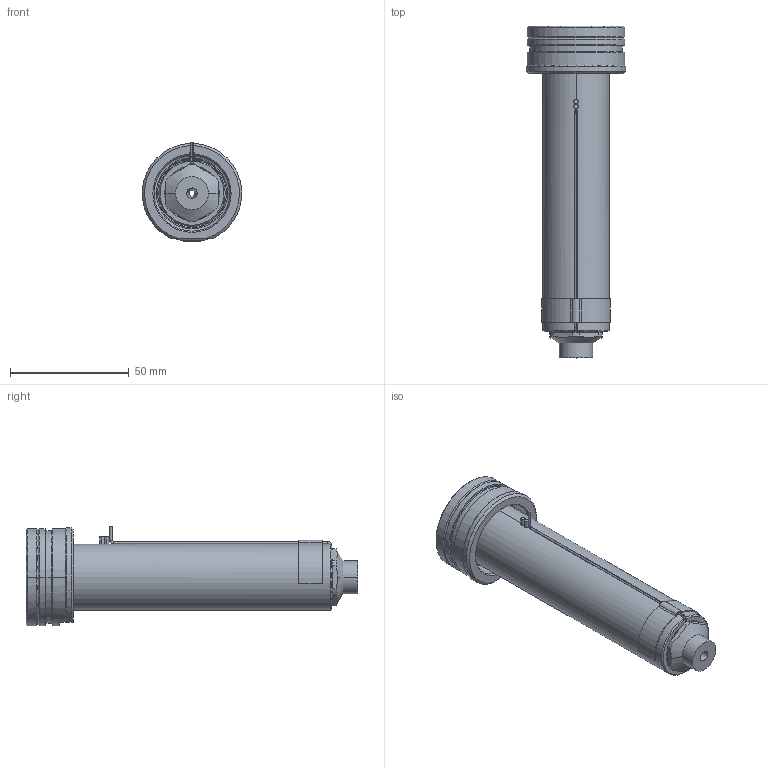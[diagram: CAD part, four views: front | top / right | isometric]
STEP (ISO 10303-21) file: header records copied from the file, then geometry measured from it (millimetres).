
FILE_DESCRIPTION((''),'2;1');
FILE_NAME('EO10_SG_SG_120_SW','2024-02-19T12:24:27',('sundharh'),(''),'CREO PARAMETRIC BY PTC INC, 2023154','CREO PARAMETRIC BY PTC INC, 2023154','');
FILE_SCHEMA(('CONFIG_CONTROL_DESIGN'));
Length unit declared in the file: millimetre
Products named in the file (1): EO10_SG_SG_120_SW
Bounding box: 41.85 x 140 x 42.02 mm (x, y, z)
Volume: 83303.4 mm3; surface area: 22757.5 mm2
Topology: 1 solids, 1 shells, 160 faces, 409 edges, 252 vertices
Faces by surface type: cylinder 63, plane 45, cone 29, torus 17, bspline 3, sphere 3
Entity records: 5543 total; most frequent: CARTESIAN_POINT 1594, DIRECTION 857, ORIENTED_EDGE 810, EDGE_CURVE 405, AXIS2_PLACEMENT_3D 353, VERTEX_POINT 252, CIRCLE 196, EDGE_LOOP 175
